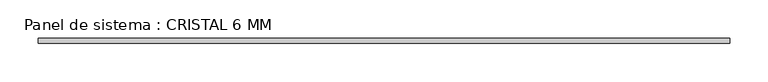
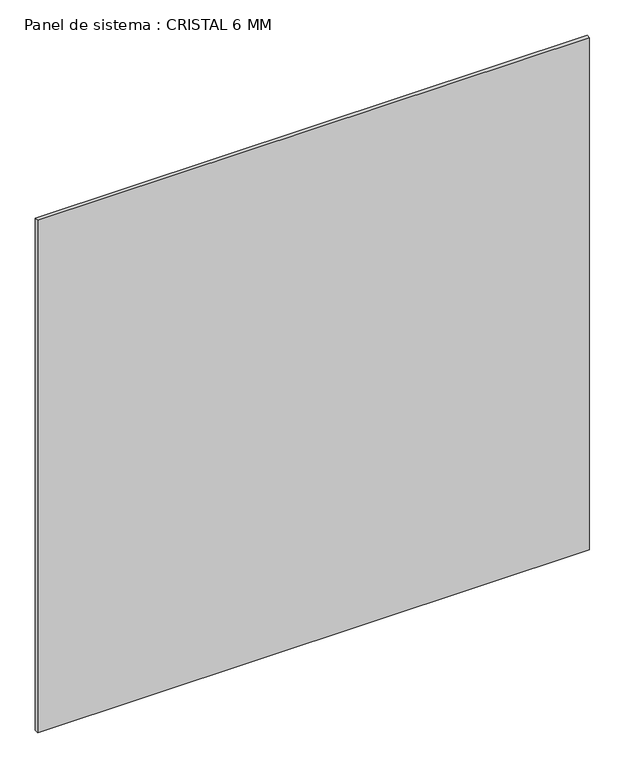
"""IFC4 building model written with IfcOpenShell, lengths in millimetres: plate geometry, Panel de sistema : CRISTAL 6 MM."""

from ifc_helpers import new_model, si_unit, origin, origin_with_axes, place, context, project, spatial, polyline, outline, extrude, source, transform, mapped, element, save


def panel_de_sistema_cristal_6_mm_005e9894(model_context):
    return source(origin(), model_context, "Body", "SweptSolid", [
        extrude(outline(polyline([(450.0, -3.0), (-450.0, -3.0), (-450.0, 3.0), (450.0, 3.0), (450.0, -3.0)])), origin_with_axes(), (0.0, 0.0, 1.0), 883.3333333),
    ])


if __name__ == "__main__":
    model = new_model("IFC4")
    model_context = context("Model", 3, world=origin())
    ifc_project = project(units=[si_unit("LENGTHUNIT", "METRE", prefix="MILLI")], contexts=[model_context])
    site = spatial("IfcSite", under=ifc_project)
    building = spatial("IfcBuilding", under=site)
    placement = place(None, origin())
    panel_de_sistema_cristal_6_mm_shape = panel_de_sistema_cristal_6_mm_005e9894(model_context)
    element("IfcPlate", 1, ObjectType="Panel de sistema : CRISTAL 6 MM", at=placement, inside=building, context=model_context, shape_type="MappedRepresentation", body=[
        mapped(panel_de_sistema_cristal_6_mm_shape, transform((0.0, 0.0, 0.0), x_axis=(1.0, 0.0, 0.0), y_axis=(0.0, 1.0, 0.0), z_axis=(0.0, 0.0, 1.0))),
    ])
    save(model, "model.ifc")
